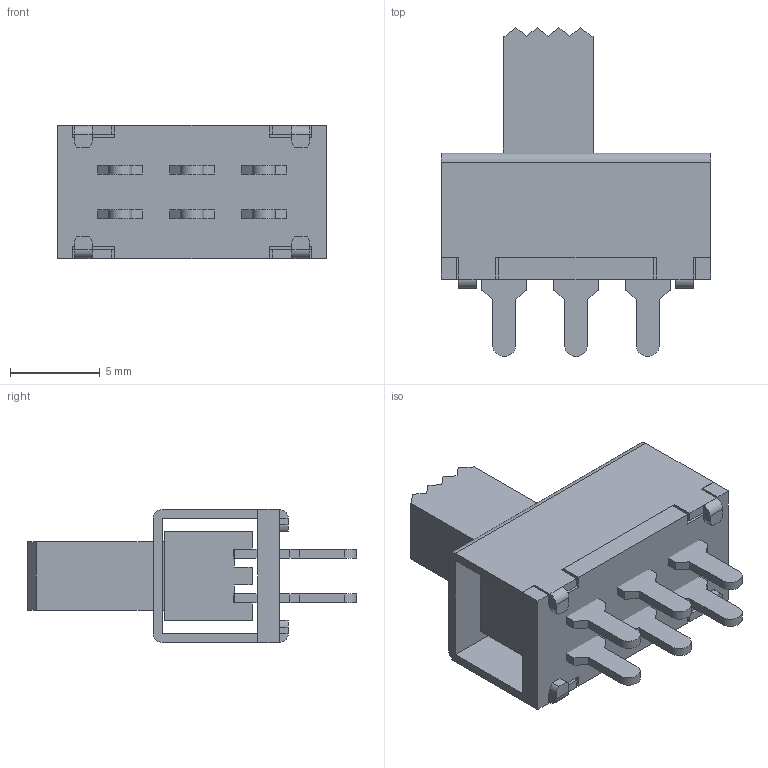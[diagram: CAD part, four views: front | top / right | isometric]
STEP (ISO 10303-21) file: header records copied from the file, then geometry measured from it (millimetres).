
FILE_DESCRIPTION((''),'2;1');
FILE_NAME('MFP201N_ASM','2016-06-24T',('Administrator'),(''),'PRO/ENGINEER BY PARAMETRIC TECHNOLOGY CORPORATION, 2010370','PRO/ENGINEER BY PARAMETRIC TECHNOLOGY CORPORATION, 2010370','');
FILE_SCHEMA(('CONFIG_CONTROL_DESIGN'));
Length unit declared in the file: millimetre
Products named in the file (5): M1_0; M3_0; M4_0; M5_0; MFP201N_ASM
Assembly tree (4 placements, depth 2):
  MFP201N_ASM
    M1_0
    M3_0
    M4_0
    M5_0
Bounding box: 15 x 18.3 x 7.4 mm (x, y, z)
Volume: 683 mm3; surface area: 1480.4 mm2
Topology: 9 solids, 9 shells, 211 faces, 544 edges, 352 vertices
Faces by surface type: plane 191, cylinder 20
Entity records: 6405 total; most frequent: CARTESIAN_POINT 1116, ORIENTED_EDGE 1088, DIRECTION 1024, EDGE_CURVE 544, VECTOR 504, LINE 504, VERTEX_POINT 352, AXIS2_PLACEMENT_3D 260
